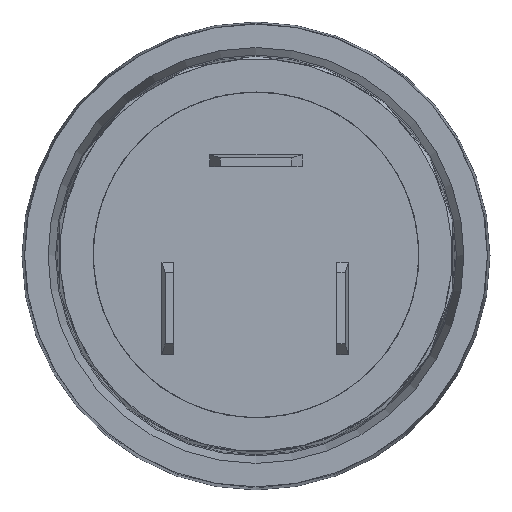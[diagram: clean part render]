
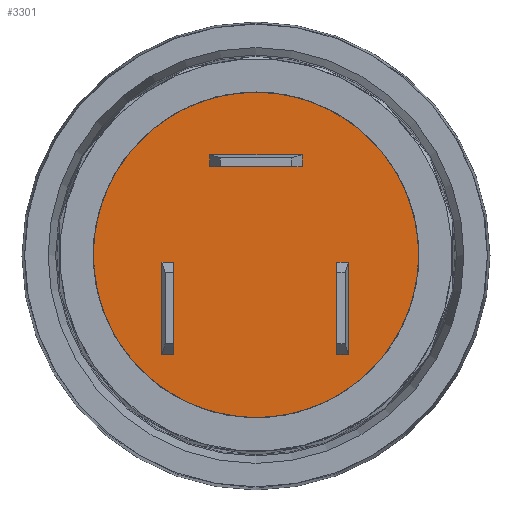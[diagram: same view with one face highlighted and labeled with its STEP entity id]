
A CAD part, top view. The second image highlights one B-rep face of the part: STEP entity #3301.
In plain terms, the highlighted planar face has unit normal (0, 0, 1).
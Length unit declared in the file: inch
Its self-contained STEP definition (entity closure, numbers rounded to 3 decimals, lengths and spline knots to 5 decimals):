
#742 = CIRCLE ( 'NONE', #2251, 0.44 ) ;
#959 = EDGE_CURVE ( 'NONE', #3722, #3722, #742, .T. ) ;
#1803 = DIRECTION ( 'NONE',  ( 0., -1., 0. ) ) ;
#1933 = ORIENTED_EDGE ( 'NONE', *, *, #959, .T. ) ;
#1989 = CARTESIAN_POINT ( 'NONE',  ( 0., 0., 2.94582 ) ) ;
#2064 = DIRECTION ( 'NONE',  ( 0., 0., 1. ) ) ;
#2137 = PLANE ( 'NONE',  #4401 ) ;
#2251 = AXIS2_PLACEMENT_3D ( 'NONE', #1989, #3458, #4611 ) ;
#2579 = EDGE_LOOP ( 'NONE', ( #1933 ) ) ;
#2853 = FACE_OUTER_BOUND ( 'NONE', #2579, .T. ) ;
#2940 = CARTESIAN_POINT ( 'NONE',  ( 0., -0.44, 2.94582 ) ) ;
#3301 = ADVANCED_FACE ( 'NONE', ( #2853 ), #2137, .T. ) ;
#3458 = DIRECTION ( 'NONE',  ( 0., 0., 1. ) ) ;
#3584 = CARTESIAN_POINT ( 'NONE',  ( 0., 0., 2.94582 ) ) ;
#3722 = VERTEX_POINT ( 'NONE', #2940 ) ;
#4401 = AXIS2_PLACEMENT_3D ( 'NONE', #3584, #2064, #1803 ) ;
#4611 = DIRECTION ( 'NONE',  ( 0., -1., 0. ) ) ;
